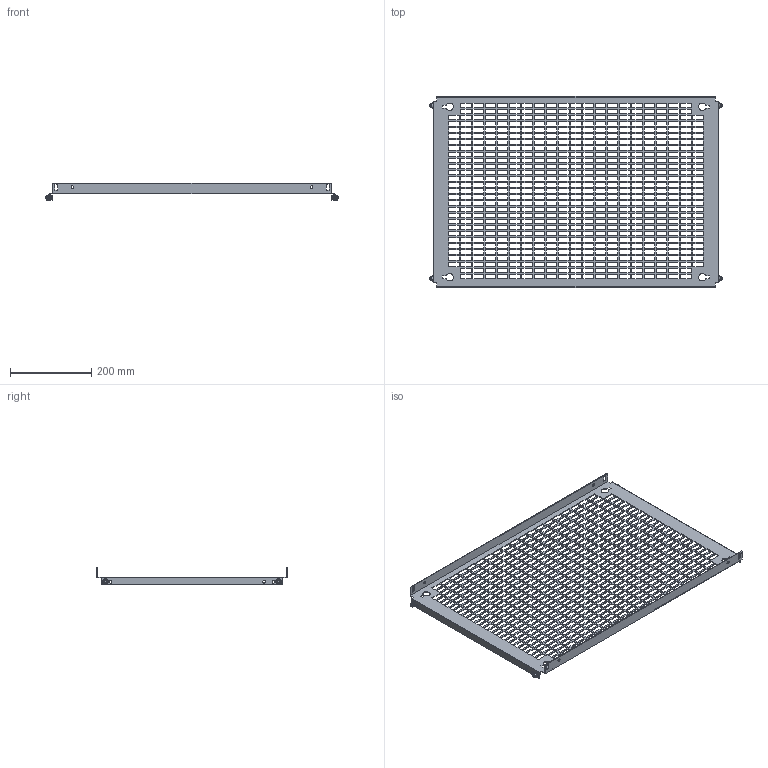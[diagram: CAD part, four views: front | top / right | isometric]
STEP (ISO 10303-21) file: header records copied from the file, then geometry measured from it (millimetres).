
FILE_DESCRIPTION(('Open CASCADE Model'),'2;1');
FILE_NAME('Open CASCADE Shape Model','2025-02-19T16:49:50',('Author'),( 'Open CASCADE'),'Open CASCADE STEP processor 7.8','Open CASCADE 7.8' ,'Unknown');
FILE_SCHEMA(('AUTOMOTIVE_DESIGN { 1 0 10303 214 1 1 1 1 }'));
Length unit declared in the file: millimetre
Products named in the file (4): Compound1; Solid1; Solid2; Solid3
Assembly tree (9 placements, depth 2):
  Compound1
    Solid1
    Solid2  x4
    Solid3  x4
Bounding box: 720 x 469 x 43 mm (x, y, z)
Volume: 409528.3 mm3; surface area: 504207.8 mm2
Topology: 9 solids, 9 shells, 2696 faces, 7917 edges, 5243 vertices
Faces by surface type: plane 2538, cone 68, bspline 48, cylinder 30, torus 12
Full cylindrical faces by diameter (mm): 5 x4, 6 x8, 7 x14
Entity records: 86526 total; most frequent: CARTESIAN_POINT 15767, ORIENTED_EDGE 15156, DIRECTION 12642, EDGE_CURVE 7578, LINE 7420, VECTOR 7420, VERTEX_POINT 5045, FACE_BOUND 3789
